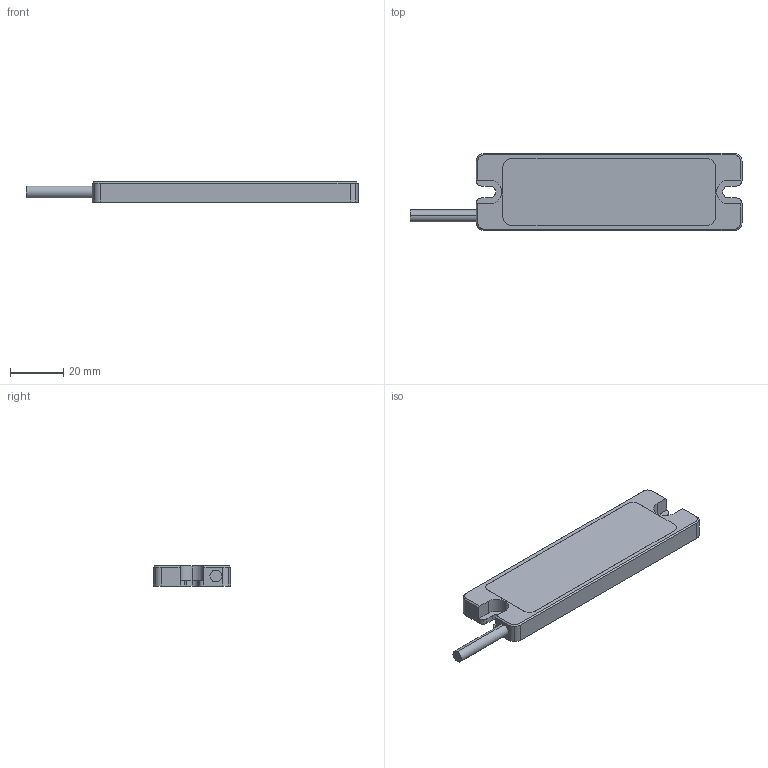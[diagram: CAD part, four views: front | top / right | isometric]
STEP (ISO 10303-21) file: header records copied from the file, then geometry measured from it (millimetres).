
FILE_DESCRIPTION(('STEP AP214'),'1');
FILE_NAME('F:/3D Zeichnungen/Datenblatt/tmp0.STEP','2019-05-23T07:41:38',(' '),(' '),'Spatial InterOp 3D',' ',' ');
FILE_SCHEMA(('automotive_design'));
Length unit declared in the file: millimetre
Products named in the file (2): 1; 2
Bounding box: 125 x 29 x 7.58 mm (x, y, z)
Volume: 18161.2 mm3; surface area: 14488.9 mm2
Topology: 2 solids, 2 shells, 89 faces, 237 edges, 154 vertices
Faces by surface type: cylinder 44, plane 37, cone 8
Entity records: 3576 total; most frequent: DIRECTION 513, CARTESIAN_POINT 512, ORIENTED_EDGE 474, EDGE_CURVE 237, AXIS2_PLACEMENT_3D 187, VERTEX_POINT 154, LINE 139, VECTOR 139
